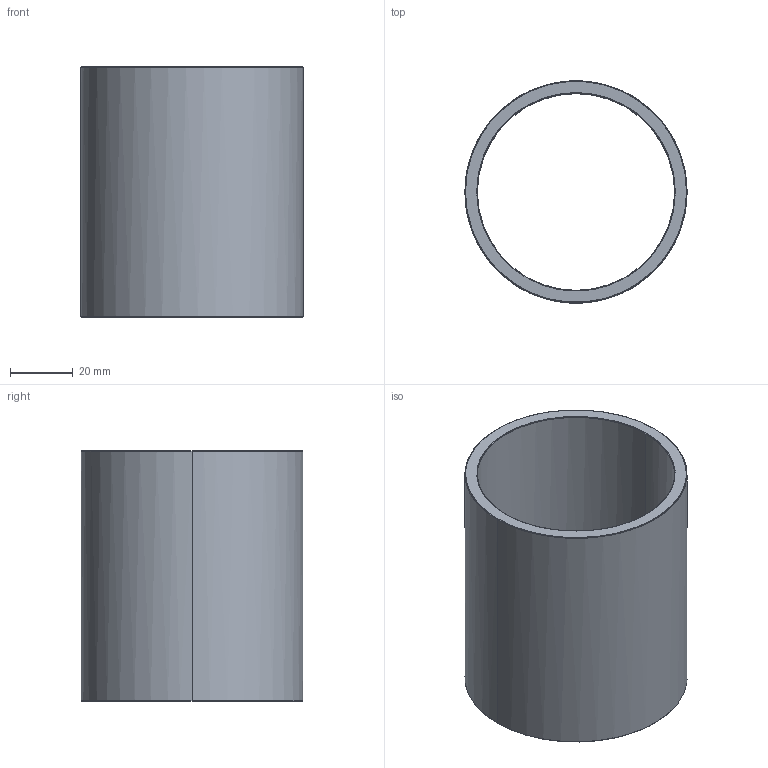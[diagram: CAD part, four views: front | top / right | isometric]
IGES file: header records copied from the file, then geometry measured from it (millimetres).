
Start section: Write IGES format                                    datakit 2008 (c)
Global section: file name: Unknown; native system: DATAKIT Converter; preprocessor: Unknown; author: Unknown; organization: Unknown; date: 950613.180003; units: millimetre
Bounding box: 71 x 70.9 x 80 mm (x, y, z)
Surface area: 35263.1 mm2 (no closed solid volume)
Topology: 0 solids, 0 shells, 14 faces, 56 edges, 56 vertices
Faces by surface type: revolution 12, bspline 2
